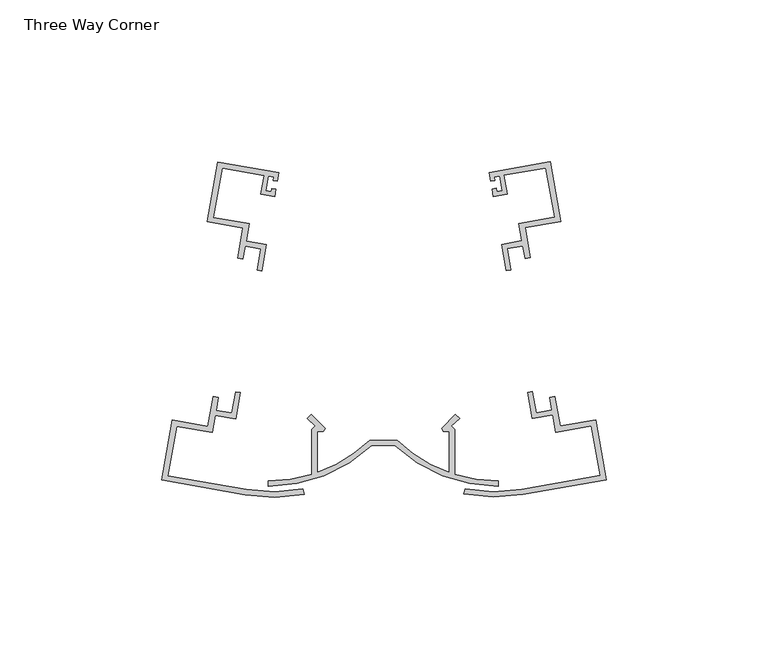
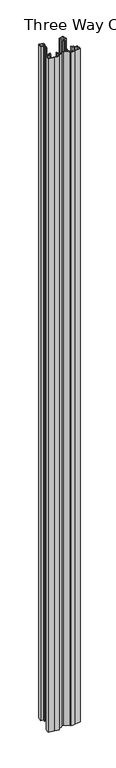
"""IFC4 building model written with IfcOpenShell, lengths in millimetres: proxy geometry, Connection-Variable_Angle-Teknion-Altos-Three_Way_FKCA3 : Three Way Corner."""

from ifc_helpers import new_model, si_unit, point, frame_2d, origin, origin_with_axes, place, context, project, spatial, polyline, circle_curve, trimmed, segment, composite_curve, outline, extrude, source, transform, mapped, element, save


def three_way_corner_1816b13c(model_context):
    return source(origin(), model_context, "Body", "SweptSolid", [
        extrude(outline(polyline([(51.5565874, 1.8964216), (54.8203272, -16.6131666), (43.8243363, -18.5520565), (45.4564646, -27.8083162), (43.8294132, -28.0952092), (43.1313147, -24.136096), (38.2943769, -24.9889786), (39.4582832, -31.5898191), (38.0530595, -31.837598), (36.6152463, -23.6833542), (42.8574078, -22.5826927), (41.9126941, -17.2249546), (52.9240353, -15.283358), (50.2361102, -0.0393771), (37.2679027, -2.326022), (38.2852945, -8.0959377), (34.0548404, -8.8418809), (33.6523898, -6.5594699), (34.8685702, -6.3450245), (35.0425444, -7.3316811), (36.8350295, -7.0156176), (36.0461141, -2.5414563), (34.253629, -2.8575198), (34.4364823, -3.8945325), (33.2203019, -4.1089779), (32.7462248, -1.4203528), (51.5565874, 1.8964216)])), origin_with_axes(), (0.0, 0.0, 1.0), 3048.0),
        extrude(outline(composite_curve([segment(polyline([(47.2494218, -75.7755617), (52.0863596, -74.9226791), (51.3910365, -70.9793056), (53.0180879, -70.6924125), (54.6396132, -79.8885398), (65.6356041, -77.94965), (68.9016605, -96.4723763), (43.1479706, -101.0134467)]), True, "CONTINUOUS"), segment(trimmed(circle_curve(frame_2d((34.3533139, -51.1364702)), 50.6464093), [point((43.1479706, -101.0134467))], [point((24.9429414, -100.9009521))], False, "CARTESIAN"), True, "CONTINUOUS"), segment(polyline([(24.9429414, -100.9009521), (25.2615339, -99.302307)]), True, "CONTINUOUS"), segment(trimmed(circle_curve(frame_2d((34.3829487, -51.2651276)), 48.8955091), [point((25.2615339, -99.302307))], [point((42.8735648, -99.417804))], True, "CARTESIAN"), True, "CONTINUOUS"), segment(polyline([(42.8735648, -99.417804), (67.0088142, -95.1621084), (64.3159854, -79.8903176), (53.3046442, -81.8319141), (52.3542991, -76.4422392), (46.1121375, -77.5429007), (44.6803657, -69.4229192), (46.0855894, -69.1751404), (47.2494218, -75.7755617)]), True, "CONTINUOUS")], self_intersect=False)), origin_with_axes(), (0.0, 0.0, 1.0), 3048.0),
        extrude(outline(polyline([(-51.1029862, 1.8164395), (-32.2926236, -1.500335), (-32.7667008, -4.18896), (-33.9828812, -3.9745146), (-33.8000279, -2.9375019), (-35.592513, -2.6214384), (-36.3814283, -7.0955997), (-34.5889432, -7.4116632), (-34.4149691, -6.4250066), (-33.1987886, -6.639452), (-33.6012393, -8.921863), (-37.8316934, -8.1759198), (-36.8143016, -2.4060041), (-49.782509, -0.1193592), (-52.4704342, -15.3633402), (-41.4590929, -17.3049367), (-42.4038067, -22.6626748), (-36.1616451, -23.7633363), (-37.5994583, -31.9175801), (-39.0046821, -31.6698013), (-37.8407758, -25.0689607), (-42.6777136, -24.2160781), (-43.3758121, -28.1751914), (-45.0028635, -27.8882983), (-43.3707352, -18.6320386), (-54.366726, -16.6931487), (-51.1029862, 1.8164395)])), origin_with_axes(), (0.0, 0.0, 1.0), 3048.0),
        extrude(outline(composite_curve([segment(polyline([(-46.7958207, -75.8555439), (-45.6319883, -69.2551225), (-44.2267645, -69.5029014), (-45.6585363, -77.6228828), (-51.9006979, -76.5222213), (-52.851043, -81.9118962), (-63.8623843, -79.9702997), (-66.555213, -95.2420905), (-42.4199636, -99.4977862)]), True, "CONTINUOUS"), segment(trimmed(circle_curve(frame_2d((-33.9293476, -51.3451097)), 48.8955091), [point((-42.4199636, -99.4977862))], [point((-24.8079327, -99.3822891))], True, "CARTESIAN"), True, "CONTINUOUS"), segment(polyline([(-24.8079327, -99.3822891), (-24.4893402, -100.9809342)]), True, "CONTINUOUS"), segment(trimmed(circle_curve(frame_2d((-33.8997128, -51.2164523)), 50.6464093), [point((-24.4893402, -100.9809342))], [point((-42.6943695, -101.0934288))], False, "CARTESIAN"), True, "CONTINUOUS"), segment(polyline([(-42.6943695, -101.0934288), (-68.4480594, -96.5523585), (-65.182003, -78.0296321), (-54.1860121, -79.968522), (-52.5644867, -70.7723947), (-50.9374353, -71.0592877), (-51.6327585, -75.0026612), (-46.7958207, -75.8555439)]), True, "CONTINUOUS")], self_intersect=False)), origin_with_axes(), (0.0, 0.0, 1.0), 3048.0),
        extrude(outline(composite_curve([segment(trimmed(circle_curve(frame_2d((35.6052146, -51.4397791)), 45.4184578), [point((4.2460227, -84.2945716))], [point((20.4459748, -94.2537226))], True, "CARTESIAN"), True, "CONTINUOUS"), segment(polyline([(20.4459748, -94.2537226), (20.4459748, -81.5821049), (18.4999413, -81.5821049), (17.9986965, -80.6394005), (22.2938478, -76.3442491), (23.5670164, -77.4587417), (21.0745355, -79.8377577), (22.1409662, -80.9041884), (22.1409662, -94.81662)]), True, "CONTINUOUS"), segment(trimmed(circle_curve(frame_2d((35.6052146, -51.4397791)), 45.4184578), [point((22.1409662, -94.81662))], [point((35.5327195, -96.8581791))], True, "CARTESIAN"), True, "CONTINUOUS"), segment(polyline([(35.5327195, -96.8581791), (35.5327195, -98.5487178)]), True, "CONTINUOUS"), segment(trimmed(circle_curve(frame_2d((35.8833819, -50.9289297)), 47.6210792), [point((35.5327195, -98.5487178))], [point((3.5652052, -85.9046733))], False, "CARTESIAN"), True, "CONTINUOUS"), segment(polyline([(3.5652052, -85.9046733), (-3.5652052, -85.9046733)]), True, "CONTINUOUS"), segment(trimmed(circle_curve(frame_2d((-35.8833819, -50.9289297)), 47.6210792), [point((-3.5652052, -85.9046733))], [point((-35.5327195, -98.5487178))], False, "CARTESIAN"), True, "CONTINUOUS"), segment(polyline([(-35.5327195, -98.5487178), (-35.5327195, -96.8581791)]), True, "CONTINUOUS"), segment(trimmed(circle_curve(frame_2d((-35.6052146, -51.4397791)), 45.4184578), [point((-35.5327195, -96.8581791))], [point((-22.1409662, -94.81662))], True, "CARTESIAN"), True, "CONTINUOUS"), segment(polyline([(-22.1409662, -94.81662), (-22.1409662, -80.9041884), (-21.0745355, -79.8377577), (-23.5670164, -77.4587417), (-22.2938478, -76.3442491), (-17.9986965, -80.6394005), (-18.4999413, -81.5821049), (-20.4459748, -81.5821049), (-20.4459748, -94.2537226)]), True, "CONTINUOUS"), segment(trimmed(circle_curve(frame_2d((-35.6052146, -51.4397791)), 45.4184578), [point((-20.4459748, -94.2537226))], [point((-4.2460227, -84.2945716))], True, "CARTESIAN"), True, "CONTINUOUS"), segment(polyline([(-4.2460227, -84.2945716), (4.2460227, -84.2945716)]), True, "CONTINUOUS")], self_intersect=False)), origin_with_axes(), (0.0, 0.0, 1.0), 3048.0),
    ])


if __name__ == "__main__":
    model = new_model("IFC4")
    model_context = context("Model", 3, world=origin())
    ifc_project = project(units=[si_unit("LENGTHUNIT", "METRE", prefix="MILLI")], contexts=[model_context])
    site = spatial("IfcSite", under=ifc_project)
    building = spatial("IfcBuilding", under=site)
    placement = place(None, origin())
    three_way_corner_shape = three_way_corner_1816b13c(model_context)
    element("IfcBuildingElementProxy", 1, Name="Connection-Variable_Angle-Teknion-Altos-Three_Way_FKCA3 : Three Way Corner", ObjectType="Connection-Variable_Angle-Teknion-Altos-Three_Way_FKCA3 : Three Way Corner", at=placement, inside=building, context=model_context, shape_type="MappedRepresentation", body=[
        mapped(three_way_corner_shape, transform((0.0, 0.0, 0.0), x_axis=(1.0, 0.0, 0.0), y_axis=(0.0, 1.0, 0.0), z_axis=(0.0, 0.0, 1.0))),
    ])
    save(model, "model.ifc")
